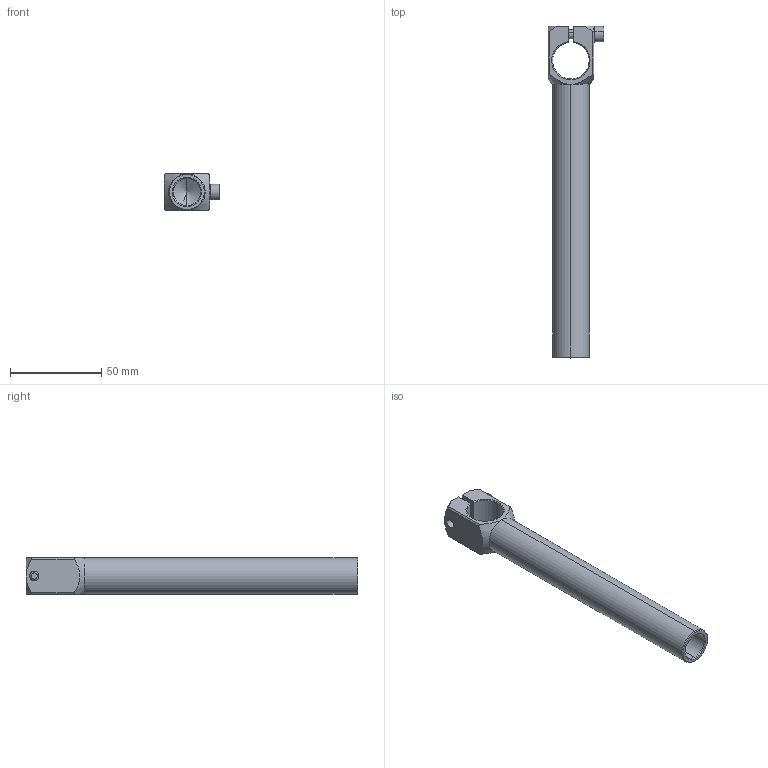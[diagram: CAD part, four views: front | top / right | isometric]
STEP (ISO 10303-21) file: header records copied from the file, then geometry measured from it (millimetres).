
FILE_DESCRIPTION (( 'STEP AP214' ), '1' );
FILE_NAME ('SCA1-2020L150.STEP', '2019-11-07T05:49:22', ( '微软用户' ), ( '微软中国' ), 'SwSTEP 2.0', 'SolidWorks 2016', '' );
FILE_SCHEMA (( 'AUTOMOTIVE_DESIGN' ));
Length unit declared in the file: millimetre
Products named in the file (1): SCA1-2020L150
Bounding box: 30.6 x 182 x 20 mm (x, y, z)
Volume: 38168 mm3; surface area: 19572.4 mm2
Topology: 3 solids, 3 shells, 256 faces, 722 edges, 471 vertices
Faces by surface type: plane 211, cylinder 23, cone 20, bspline 2
Entity records: 11412 total; most frequent: CARTESIAN_POINT 1741, DIRECTION 1454, ORIENTED_EDGE 1440, EDGE_CURVE 720, AXIS2_PLACEMENT_3D 501, VERTEX_POINT 471, VECTOR 452, LINE 452
